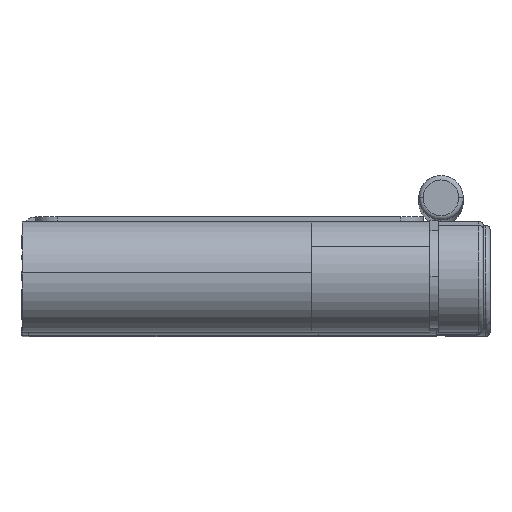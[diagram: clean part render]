
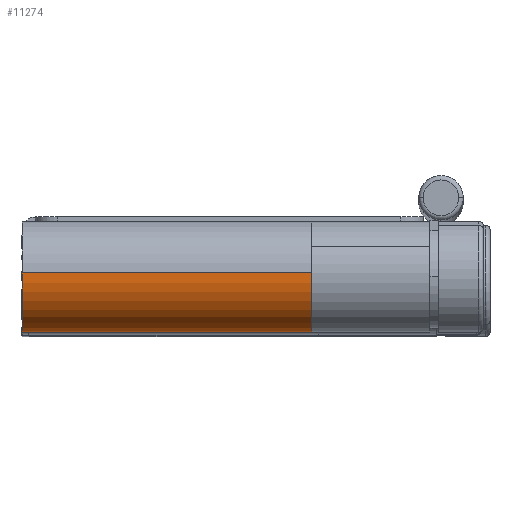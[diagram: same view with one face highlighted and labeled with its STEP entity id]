
A CAD part, top view. The second image highlights one B-rep face of the part: STEP entity #11274.
In plain terms, the highlighted cylindrical face has radius 12.5 mm (diameter 25 mm), a partial arc.
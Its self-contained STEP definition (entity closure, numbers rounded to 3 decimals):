
#157 = AXIS2_PLACEMENT_3D ( 'NONE', #6275, #8279, #5498 ) ;
#488 = EDGE_CURVE ( 'NONE', #707, #7952, #7960, .T. ) ;
#569 = EDGE_CURVE ( 'NONE', #3820, #7952, #1004, .T. ) ;
#707 = VERTEX_POINT ( 'NONE', #1901 ) ;
#1004 = CIRCLE ( 'NONE', #157, 12.5 ) ;
#1314 = DIRECTION ( 'NONE',  ( 0., 1., 0. ) ) ;
#1901 = CARTESIAN_POINT ( 'NONE',  ( 0., 63., 12.5 ) ) ;
#2064 = DIRECTION ( 'NONE',  ( 0., 0., -1. ) ) ;
#2181 = DIRECTION ( 'NONE',  ( 0., -1., 0. ) ) ;
#2192 = CARTESIAN_POINT ( 'NONE',  ( 0., 63., 0. ) ) ;
#2294 = VECTOR ( 'NONE', #5328, 1000. ) ;
#2520 = EDGE_CURVE ( 'NONE', #6492, #3820, #7194, .T. ) ;
#2781 = AXIS2_PLACEMENT_3D ( 'NONE', #2192, #10913, #2064 ) ;
#3443 = CARTESIAN_POINT ( 'NONE',  ( 0., -2., 12.5 ) ) ;
#3820 = VERTEX_POINT ( 'NONE', #6542 ) ;
#5328 = DIRECTION ( 'NONE',  ( 0., -1., 0. ) ) ;
#5498 = DIRECTION ( 'NONE',  ( 0., 0., -1. ) ) ;
#5643 = ORIENTED_EDGE ( 'NONE', *, *, #488, .T. ) ;
#6204 = CARTESIAN_POINT ( 'NONE',  ( 0., 63., 12.5 ) ) ;
#6275 = CARTESIAN_POINT ( 'NONE',  ( 0., -2., 0. ) ) ;
#6276 = CIRCLE ( 'NONE', #7307, 12.5 ) ;
#6492 = VERTEX_POINT ( 'NONE', #12049 ) ;
#6542 = CARTESIAN_POINT ( 'NONE',  ( 0., -2., -12.5 ) ) ;
#6708 = ORIENTED_EDGE ( 'NONE', *, *, #569, .F. ) ;
#7063 = FACE_OUTER_BOUND ( 'NONE', #8044, .T. ) ;
#7124 = CYLINDRICAL_SURFACE ( 'NONE', #2781, 12.5 ) ;
#7194 = LINE ( 'NONE', #10133, #2294 ) ;
#7307 = AXIS2_PLACEMENT_3D ( 'NONE', #8396, #1314, #9252 ) ;
#7722 = ORIENTED_EDGE ( 'NONE', *, *, #8764, .F. ) ;
#7952 = VERTEX_POINT ( 'NONE', #3443 ) ;
#7960 = LINE ( 'NONE', #6204, #9329 ) ;
#8044 = EDGE_LOOP ( 'NONE', ( #7722, #5643, #6708, #8771 ) ) ;
#8279 = DIRECTION ( 'NONE',  ( 0., -1., 0. ) ) ;
#8396 = CARTESIAN_POINT ( 'NONE',  ( 0., 63., 0. ) ) ;
#8764 = EDGE_CURVE ( 'NONE', #707, #6492, #6276, .T. ) ;
#8771 = ORIENTED_EDGE ( 'NONE', *, *, #2520, .F. ) ;
#9252 = DIRECTION ( 'NONE',  ( 0., 0., 1. ) ) ;
#9329 = VECTOR ( 'NONE', #2181, 1000. ) ;
#10133 = CARTESIAN_POINT ( 'NONE',  ( 0., 63., -12.5 ) ) ;
#10913 = DIRECTION ( 'NONE',  ( 0., -1., 0. ) ) ;
#11274 = ADVANCED_FACE ( 'NONE', ( #7063 ), #7124, .T. ) ;
#12049 = CARTESIAN_POINT ( 'NONE',  ( 0., 63., -12.5 ) ) ;
